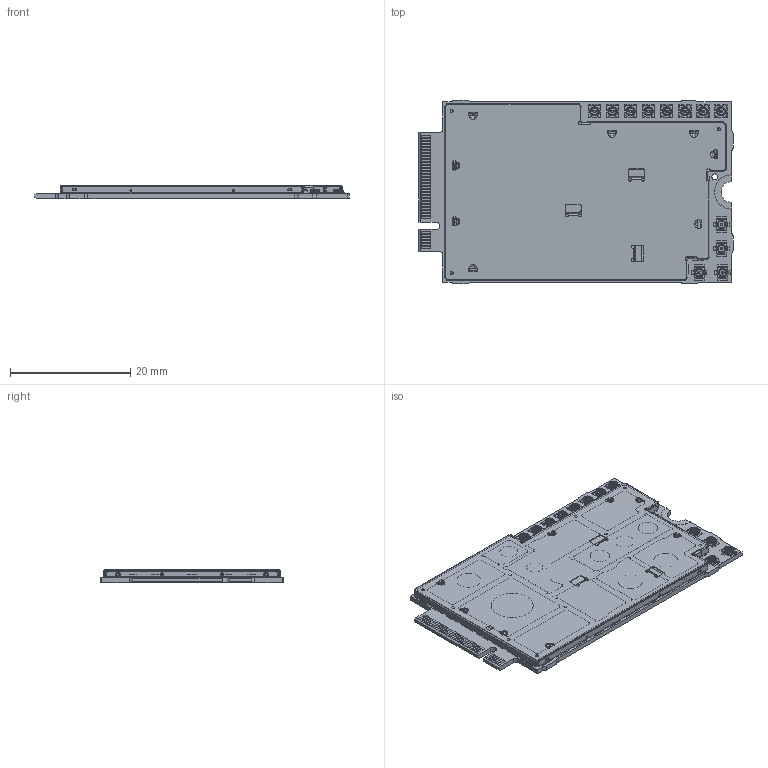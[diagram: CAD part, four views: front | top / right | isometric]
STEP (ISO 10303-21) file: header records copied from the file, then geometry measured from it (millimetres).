
FILE_DESCRIPTION((''),'2;1');
FILE_NAME('5304242_EM9190_PCA_CS_ASM','2023-07-05T11:01:43',('awicikowski'),(''),'CREO PARAMETRIC BY PTC INC, 2022124','CREO PARAMETRIC BY PTC INC, 2022124','');
FILE_SCHEMA(('CONFIG_CONTROL_DESIGN','SHAPE_APPEARANCE_LAYERS_GROUPS'));
Products named in the file (104): EM9190_5306361; 3017083; 3017246; 3016829; 3016895; 3016815; 3017082; 3017081; 3017080; 3017096; 3016797; 3500126; 3017376; 3016821; 3016918; 3016779; 3017266; 3401186; 3016373; 3016041; 3016038; 3016034; 3016035; 3016070; 3016072; 3016074; 3016071; 3016067; 3016066; 3016068; 3016277; 3016064; 3015377; 3015502; 3015462; 3015469; 3015380; 3015493; 3015398; 3015478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
Assembly tree (628 placements, depth 2):
  5304242_EM9190_PCA_CS_ASM
    EM9190_5306361
    3017083
    3017246
    3016829  x3
    3016895
    3016815  x2
    3017082
    3017081
    3017080
    3017096
    3016797  x2
    3500126  x2
    3017376
    3016821  x4
    3016918  x2
    3016779
    3017266  x6
    3401186  x2
    3016373
    3016041
    3016038  x2
    3016034  x2
    3016035
    3016070
    3016072
    3016074  x47
    3016071
    3016067
    3016066
    3016068
    3016277
    3016064
    3015377  x73
    3015502  x4
    3015462  x12
    3015469  x2
    3015380  x6
    3015493
    3015398  x5
    3015478
    3015446  x3
    3015414
    3015423  x3
    3017372  x2
    3016420
    3017373  x3
    3016008
    3016025  x51
    3016022  x11
    3015993  x113
    3016011
    3100635  x45
    3016021
    3016864  x19
    3015367  x18
    3015987
    3300465  x3
    3016233
    3300544  x8
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Bounding box: 52.25 x 30.5 x 2.17 mm (x, y, z)
Volume: 2139.9 mm3; surface area: 11507.5 mm2
Topology: 624 solids, 665 shells, 8126 faces, 19674 edges, 13052 vertices
Faces by surface type: plane 6717, cylinder 1045, torus 120, cone 104, sphere 72, bspline 68
Entity records: 150240 total; most frequent: CARTESIAN_POINT 24948, DIRECTION 20546, ORIENTED_EDGE 19661, EDGE_CURVE 9889, VECTOR 7868, LINE 7868, PRESENTATION_STYLE_ASSIGNMENT 6641, VERTEX_POINT 6451
